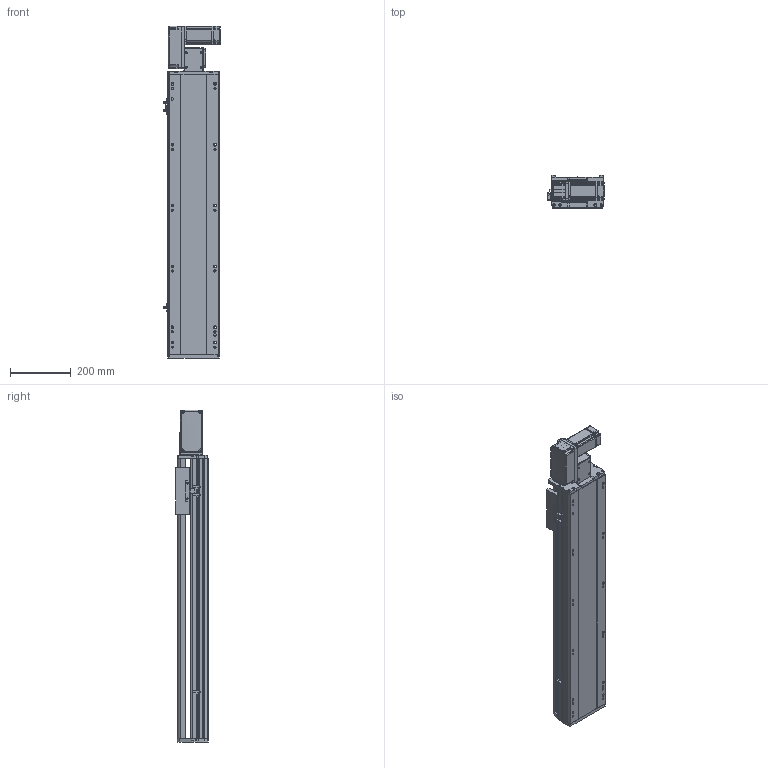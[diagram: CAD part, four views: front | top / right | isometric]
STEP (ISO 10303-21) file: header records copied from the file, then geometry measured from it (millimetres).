
FILE_DESCRIPTION (( 'STEP AP214' ), '1' );
FILE_NAME ('RTB17S-XX-650-L-M40-C4.STEP', '2025-12-11T03:55:53', ( '' ), ( '' ), 'SwSTEP 2.0', 'SolidWorks 2018', '' );
FILE_SCHEMA (( 'AUTOMOTIVE_DESIGN' ));
Length unit declared in the file: millimetre
Products named in the file (14): RTB17S-XX-650-L-M40-C4; RMP17S-L-014-T20--皮带座^RTB17S-L-皮带座装配-400W_RTB17S-XX-XX-L-M40-C4（方程式）; RTB14-L-008-M20--电机板^RTB17S-L-皮带座装配-400W_RTB17S-XX-XX-L-M40-C4（方程式）; RTB14-L-017P^RTB17S-L-皮带座装配-400W_RTB17S-XX-XX-L-M40-C4（方程式）; 400W伺服电机^RTB17S-XX-XX-L-M40-C4（方程式）; RTB14-L-018P^RTB17S-L-皮带座装配-400W_RTB17S-XX-XX-L-M40-C4（方程式）; RTB17S-L-001侧面板^RTB17S-XX-XX-L-M40-C4（方程式）; RTB17S-L-皮带座装配-400W^RTB17S-XX-XX-L-M40-C4（方程式）; RTB17S-L-004丝杆螺母连接座^RTB17S-XX-XX-L-M40-C4（方程式）; OMRON EE-SX672 传感器^RTB17S-XX-XX-L-M40-C4（方程式）; RTB17-R-011底座^RTB17S-XX-XX-L-M40-C4（方程式）; RTB17S-L-007上盖^RTB17S-XX-XX-L-M40-C4（方程式）; RTB14-L-005P--轴承塑胶压盖^RTB17S-L-皮带座装配-400W_RTB17S-XX-XX-L-M40-C4（方程式）; RTH13-BL-012感应片外置^RTB17S-XX-XX-L-M40-C4（方程式）
Assembly tree (16 placements, depth 3):
  RTB17S-XX-650-L-M40-C4
    RTB17-R-011底座^RTB17S-XX-XX-L-M40-C4（方程式）
    RTB17S-L-007上盖^RTB17S-XX-XX-L-M40-C4（方程式）
    OMRON EE-SX672 传感器^RTB17S-XX-XX-L-M40-C4（方程式）  x3
    RTB17S-L-001侧面板^RTB17S-XX-XX-L-M40-C4（方程式）
    400W伺服电机^RTB17S-XX-XX-L-M40-C4（方程式）
    RTB17S-L-004丝杆螺母连接座^RTB17S-XX-XX-L-M40-C4（方程式）
    RTH13-BL-012感应片外置^RTB17S-XX-XX-L-M40-C4（方程式）
    RTB17S-L-皮带座装配-400W^RTB17S-XX-XX-L-M40-C4（方程式）
      RMP17S-L-014-T20--皮带座^RTB17S-L-皮带座装配-400W_RTB17S-XX-XX-L-M40-C4（方程式）
      RTB14-L-005P--轴承塑胶压盖^RTB17S-L-皮带座装配-400W_RTB17S-XX-XX-L-M40-C4（方程式）
      RTB14-L-008-M20--电机板^RTB17S-L-皮带座装配-400W_RTB17S-XX-XX-L-M40-C4（方程式）
      RTB14-L-017P^RTB17S-L-皮带座装配-400W_RTB17S-XX-XX-L-M40-C4（方程式）  x2
      RTB14-L-018P^RTB17S-L-皮带座装配-400W_RTB17S-XX-XX-L-M40-C4（方程式）
Bounding box: 186 x 108 x 1091 mm (x, y, z)
Volume: 9514907.8 mm3; surface area: 1188611.5 mm2
Topology: 15 solids, 15 shells, 2189 faces, 6033 edges, 3933 vertices
Faces by surface type: plane 1066, cylinder 675, bspline 301, cone 139, torus 8
Entity records: 61865 total; most frequent: CARTESIAN_POINT 17238, ORIENTED_EDGE 8910, DIRECTION 8306, EDGE_CURVE 4455, VERTEX_POINT 2921, AXIS2_PLACEMENT_3D 2851, LINE 2604, VECTOR 2604
